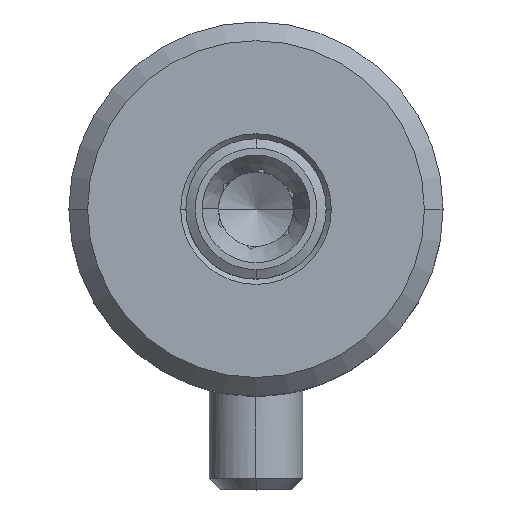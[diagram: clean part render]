
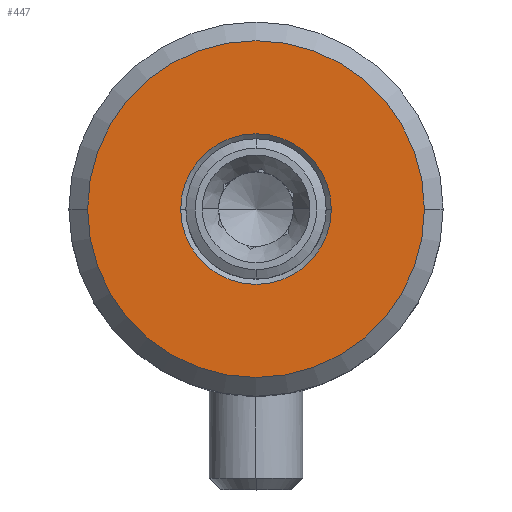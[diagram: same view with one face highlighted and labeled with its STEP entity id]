
A CAD part, top view. The second image highlights one B-rep face of the part: STEP entity #447.
In plain terms, the highlighted planar face has unit normal (0, 0, 1).
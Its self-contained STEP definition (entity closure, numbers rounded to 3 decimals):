
#109 = VERTEX_POINT ( 'NONE', #764 ) ;
#112 = VERTEX_POINT ( 'NONE', #759 ) ;
#122 = EDGE_CURVE ( 'NONE', #109, #112, #804, .T. ) ;
#198 = EDGE_CURVE ( 'NONE', #199, #200, #1109, .T. ) ;
#199 = VERTEX_POINT ( 'NONE', #1105 ) ;
#200 = VERTEX_POINT ( 'NONE', #1104 ) ;
#311 = EDGE_CURVE ( 'NONE', #112, #109, #1361, .T. ) ;
#370 = EDGE_CURVE ( 'NONE', #200, #199, #1449, .T. ) ;
#371 = EDGE_LOOP ( 'NONE', ( #372, #373 ) ) ;
#372 = ORIENTED_EDGE ( 'NONE', *, *, #311, .F. ) ;
#373 = ORIENTED_EDGE ( 'NONE', *, *, #122, .F. ) ;
#447 = ADVANCED_FACE ( 'NONE', ( #1758, #1757 ), #1756, .F. ) ;
#448 = EDGE_LOOP ( 'NONE', ( #449, #450 ) ) ;
#449 = ORIENTED_EDGE ( 'NONE', *, *, #198, .F. ) ;
#450 = ORIENTED_EDGE ( 'NONE', *, *, #370, .F. ) ;
#759 = CARTESIAN_POINT ( 'NONE',  ( 1.61, 0., 11. ) ) ;
#764 = CARTESIAN_POINT ( 'NONE',  ( -1.61, 0., 11. ) ) ;
#800 = DIRECTION ( 'NONE',  ( 1., 0., 0. ) ) ;
#801 = DIRECTION ( 'NONE',  ( 0., 0., 1. ) ) ;
#802 = CARTESIAN_POINT ( 'NONE',  ( 0., 0., 11. ) ) ;
#803 = AXIS2_PLACEMENT_3D ( 'NONE', #802, #801, #800 ) ;
#804 = CIRCLE ( 'NONE', #803, 1.61 ) ;
#1104 = CARTESIAN_POINT ( 'NONE',  ( 3.6, 0., 11. ) ) ;
#1105 = CARTESIAN_POINT ( 'NONE',  ( -3.6, 0., 11. ) ) ;
#1106 = DIRECTION ( 'NONE',  ( -1., 0., 0. ) ) ;
#1107 = DIRECTION ( 'NONE',  ( 0., 0., -1. ) ) ;
#1108 = AXIS2_PLACEMENT_3D ( 'NONE', #1114, #1107, #1106 ) ;
#1109 = CIRCLE ( 'NONE', #1108, 3.6 ) ;
#1114 = CARTESIAN_POINT ( 'NONE',  ( 0., 0., 11. ) ) ;
#1353 = DIRECTION ( 'NONE',  ( 1., 0., 0. ) ) ;
#1354 = DIRECTION ( 'NONE',  ( 0., 0., 1. ) ) ;
#1355 = CARTESIAN_POINT ( 'NONE',  ( 0., 0., 11. ) ) ;
#1356 = AXIS2_PLACEMENT_3D ( 'NONE', #1355, #1354, #1353 ) ;
#1361 = CIRCLE ( 'NONE', #1356, 1.61 ) ;
#1439 = DIRECTION ( 'NONE',  ( -1., 0., 0. ) ) ;
#1440 = DIRECTION ( 'NONE',  ( 0., 0., -1. ) ) ;
#1441 = CARTESIAN_POINT ( 'NONE',  ( 0., 0., 11. ) ) ;
#1442 = AXIS2_PLACEMENT_3D ( 'NONE', #1441, #1440, #1439 ) ;
#1449 = CIRCLE ( 'NONE', #1442, 3.6 ) ;
#1752 = DIRECTION ( 'NONE',  ( -1., 0., 0. ) ) ;
#1753 = DIRECTION ( 'NONE',  ( 0., 0., -1. ) ) ;
#1754 = CARTESIAN_POINT ( 'NONE',  ( 0., 0., 11. ) ) ;
#1755 = AXIS2_PLACEMENT_3D ( 'NONE', #1754, #1753, #1752 ) ;
#1756 = PLANE ( 'NONE',  #1755 ) ;
#1757 = FACE_BOUND ( 'NONE', #371, .T. ) ;
#1758 = FACE_OUTER_BOUND ( 'NONE', #448, .T. ) ;
